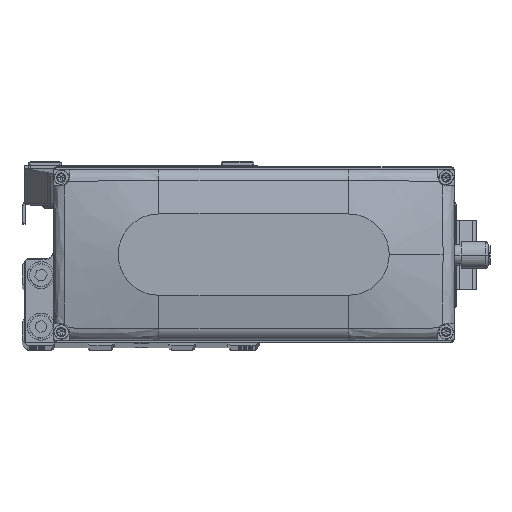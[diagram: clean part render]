
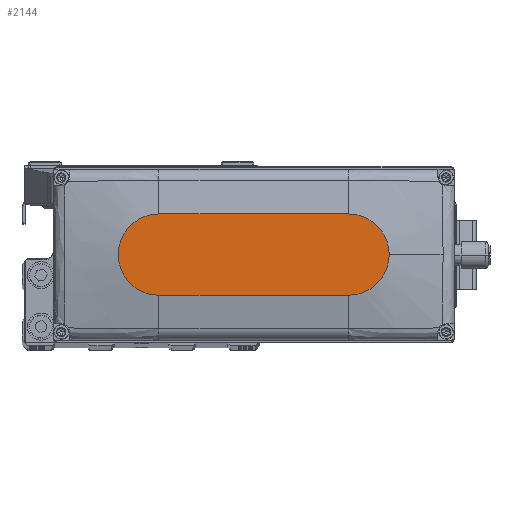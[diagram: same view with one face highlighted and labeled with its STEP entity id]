
A CAD part, top view. The second image highlights one B-rep face of the part: STEP entity #2144.
In plain terms, the highlighted planar face has unit normal (0, 0, 1).
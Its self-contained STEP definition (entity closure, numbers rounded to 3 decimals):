
#1693 = AXIS2_PLACEMENT_3D ( 'NONE', #11548, #27182, #42762 ) ;
#2144 = ADVANCED_FACE ( 'NONE', ( #31021 ), #46621, .T. ) ;
#2867 = CARTESIAN_POINT ( 'NONE',  ( -35., -15., 35. ) ) ;
#4273 = CARTESIAN_POINT ( 'NONE',  ( 50., 0., 35. ) ) ;
#6257 = EDGE_CURVE ( 'NONE', #40617, #17733, #41470, .T. ) ;
#6436 = CARTESIAN_POINT ( 'NONE',  ( -35., 15., 35. ) ) ;
#6805 = CARTESIAN_POINT ( 'NONE',  ( 35., -15., 35. ) ) ;
#10889 = ORIENTED_EDGE ( 'NONE', *, *, #6257, .T. ) ;
#10953 = DIRECTION ( 'NONE',  ( 1., 0., 0. ) ) ;
#11548 = CARTESIAN_POINT ( 'NONE',  ( 0., 0., 35. ) ) ;
#11878 = VERTEX_POINT ( 'NONE', #4273 ) ;
#12849 = AXIS2_PLACEMENT_3D ( 'NONE', #30424, #46011, #10953 ) ;
#13828 = DIRECTION ( 'NONE',  ( 0., 0., 1. ) ) ;
#14916 = DIRECTION ( 'NONE',  ( 1., 0., 0. ) ) ;
#15176 = VECTOR ( 'NONE', #22035, 1000. ) ;
#16076 = ORIENTED_EDGE ( 'NONE', *, *, #18334, .T. ) ;
#16635 = LINE ( 'NONE', #32262, #31679 ) ;
#17098 = EDGE_CURVE ( 'NONE', #26693, #50204, #16635, .T. ) ;
#17733 = VERTEX_POINT ( 'NONE', #19107 ) ;
#18334 = EDGE_CURVE ( 'NONE', #11878, #40617, #50452, .T. ) ;
#18673 = CIRCLE ( 'NONE', #47274, 15. ) ;
#19107 = CARTESIAN_POINT ( 'NONE',  ( -35., 15., 35. ) ) ;
#22035 = DIRECTION ( 'NONE',  ( -1., 0., 0. ) ) ;
#26693 = VERTEX_POINT ( 'NONE', #2867 ) ;
#26765 = ORIENTED_EDGE ( 'NONE', *, *, #49426, .T. ) ;
#27182 = DIRECTION ( 'NONE',  ( 0., 0., 1. ) ) ;
#28346 = EDGE_CURVE ( 'NONE', #50204, #11878, #18673, .T. ) ;
#28391 = AXIS2_PLACEMENT_3D ( 'NONE', #34399, #49988, #14916 ) ;
#29451 = DIRECTION ( 'NONE',  ( 1., 0., 0. ) ) ;
#30424 = CARTESIAN_POINT ( 'NONE',  ( -35., 0., 35. ) ) ;
#31021 = FACE_OUTER_BOUND ( 'NONE', #47247, .T. ) ;
#31679 = VECTOR ( 'NONE', #47865, 1000. ) ;
#32262 = CARTESIAN_POINT ( 'NONE',  ( -35., -15., 35. ) ) ;
#32395 = CARTESIAN_POINT ( 'NONE',  ( 35., 15., 35. ) ) ;
#34172 = ORIENTED_EDGE ( 'NONE', *, *, #17098, .T. ) ;
#34399 = CARTESIAN_POINT ( 'NONE',  ( 35., 0., 35. ) ) ;
#34944 = CIRCLE ( 'NONE', #12849, 15. ) ;
#40617 = VERTEX_POINT ( 'NONE', #32395 ) ;
#41470 = LINE ( 'NONE', #6436, #15176 ) ;
#42280 = ORIENTED_EDGE ( 'NONE', *, *, #28346, .T. ) ;
#42762 = DIRECTION ( 'NONE',  ( 1., 0., 0. ) ) ;
#46011 = DIRECTION ( 'NONE',  ( 0., 0., 1. ) ) ;
#46621 = PLANE ( 'NONE',  #1693 ) ;
#47247 = EDGE_LOOP ( 'NONE', ( #10889, #26765, #34172, #42280, #16076 ) ) ;
#47274 = AXIS2_PLACEMENT_3D ( 'NONE', #48896, #13828, #29451 ) ;
#47865 = DIRECTION ( 'NONE',  ( 1., 0., 0. ) ) ;
#48896 = CARTESIAN_POINT ( 'NONE',  ( 35., 0., 35. ) ) ;
#49426 = EDGE_CURVE ( 'NONE', #17733, #26693, #34944, .T. ) ;
#49988 = DIRECTION ( 'NONE',  ( 0., 0., 1. ) ) ;
#50204 = VERTEX_POINT ( 'NONE', #6805 ) ;
#50452 = CIRCLE ( 'NONE', #28391, 15. ) ;
